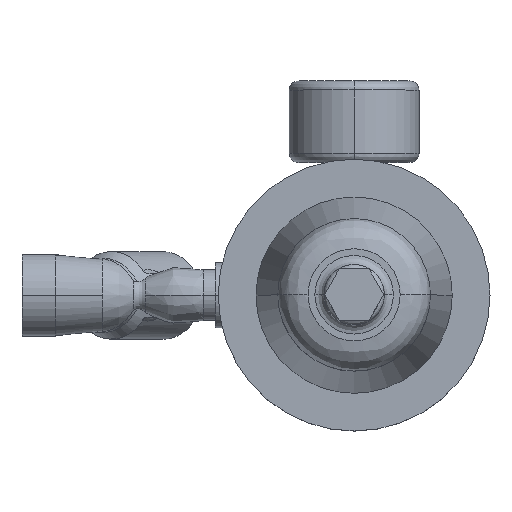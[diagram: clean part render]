
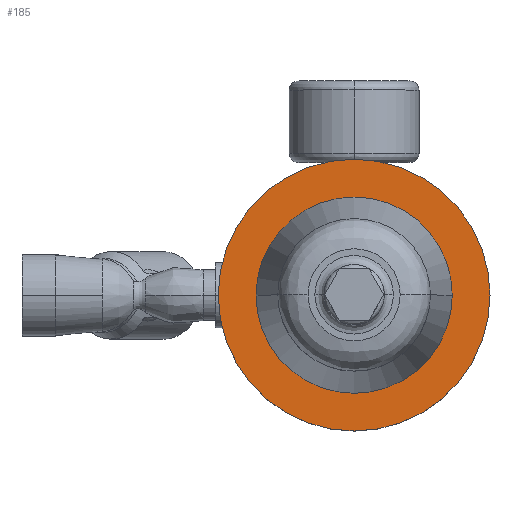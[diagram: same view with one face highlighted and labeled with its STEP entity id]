
A CAD part, top view. The second image highlights one B-rep face of the part: STEP entity #185.
In plain terms, the highlighted planar face has unit normal (0, 0, 1).
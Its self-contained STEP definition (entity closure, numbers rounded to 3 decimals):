
#185=ADVANCED_FACE('',(#757,#758),#756,.T.);
#756=PLANE('',#3180);
#757=FACE_OUTER_BOUND('',#3181,.T.);
#758=FACE_BOUND('',#3182,.T.);
#3177=CARTESIAN_POINT('',(-55.,-87.942,34.5));
#3178=DIRECTION('',(0.,0.,1.));
#3179=DIRECTION('',(1.,0.,0.));
#3180=AXIS2_PLACEMENT_3D('',#3177,#3178,#3179);
#3181=EDGE_LOOP('',(#6008,#6009));
#3182=EDGE_LOOP('',(#6010,#6011));
#6008=ORIENTED_EDGE('',*,*,#7095,.F.);
#6009=ORIENTED_EDGE('',*,*,#7096,.F.);
#6010=ORIENTED_EDGE('',*,*,#7097,.T.);
#6011=ORIENTED_EDGE('',*,*,#7098,.T.);
#7095=EDGE_CURVE('',#8402,#8403,#8404,.T.);
#7096=EDGE_CURVE('',#8403,#8402,#8410,.T.);
#7097=EDGE_CURVE('',#8416,#8417,#8418,.T.);
#7098=EDGE_CURVE('',#8417,#8416,#8424,.T.);
#8402=VERTEX_POINT('',#12037);
#8403=VERTEX_POINT('',#12038);
#8404=CIRCLE('',#12042,45.);
#8410=CIRCLE('',#12046,45.);
#8416=VERTEX_POINT('',#12047);
#8417=VERTEX_POINT('',#12048);
#8418=CIRCLE('',#12052,32.5);
#8424=CIRCLE('',#12056,32.5);
#12037=CARTESIAN_POINT('',(45.,0.,34.5));
#12038=CARTESIAN_POINT('',(-45.,0.,34.5));
#12039=CARTESIAN_POINT('',(0.,0.,34.5));
#12040=DIRECTION('',(0.,0.,-1.));
#12041=DIRECTION('',(-1.,0.,0.));
#12042=AXIS2_PLACEMENT_3D('',#12039,#12040,#12041);
#12043=CARTESIAN_POINT('',(0.,0.,34.5));
#12044=DIRECTION('',(0.,0.,-1.));
#12045=DIRECTION('',(-1.,0.,0.));
#12046=AXIS2_PLACEMENT_3D('',#12043,#12044,#12045);
#12047=CARTESIAN_POINT('',(-32.5,0.,34.5));
#12048=CARTESIAN_POINT('',(32.5,0.,34.5));
#12049=CARTESIAN_POINT('',(0.,0.,34.5));
#12050=DIRECTION('',(0.,0.,-1.));
#12051=DIRECTION('',(-1.,0.,0.));
#12052=AXIS2_PLACEMENT_3D('',#12049,#12050,#12051);
#12053=CARTESIAN_POINT('',(0.,0.,34.5));
#12054=DIRECTION('',(0.,0.,-1.));
#12055=DIRECTION('',(-1.,0.,0.));
#12056=AXIS2_PLACEMENT_3D('',#12053,#12054,#12055);
